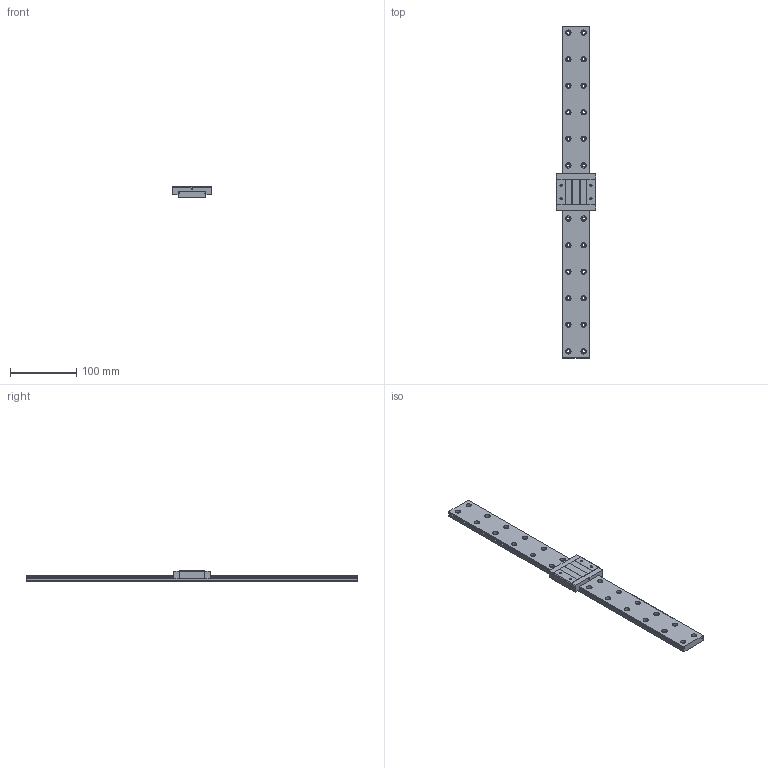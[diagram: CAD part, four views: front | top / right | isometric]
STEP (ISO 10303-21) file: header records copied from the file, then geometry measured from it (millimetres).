
FILE_DESCRIPTION (( 'STEP AP203' ), '1' );
FILE_NAME ('TM15WN.STEP', '2023-01-30T09:16:15', ( '' ), ( '' ), 'SwSTEP 2.0', 'SolidWorks 2019', '' );
FILE_SCHEMA (( 'CONFIG_CONTROL_DESIGN' ));
Length unit declared in the file: millimetre
Products named in the file (1): TM15WN
Bounding box: 60 x 500 x 16 mm (x, y, z)
Volume: 213968.8 mm3; surface area: 69585.3 mm2
Topology: 2 solids, 2 shells, 246 faces, 630 edges, 412 vertices
Faces by surface type: cylinder 148, plane 90, cone 8
Entity records: 7697 total; most frequent: DIRECTION 1412, CARTESIAN_POINT 1281, ORIENTED_EDGE 1244, EDGE_CURVE 622, AXIS2_PLACEMENT_3D 543, VERTEX_POINT 412, EDGE_LOOP 330, VECTOR 326
